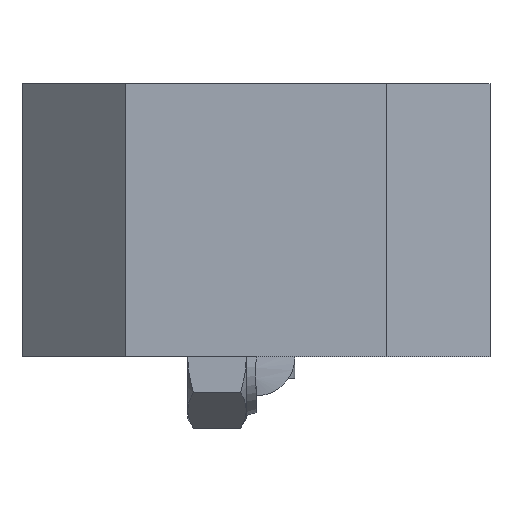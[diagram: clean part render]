
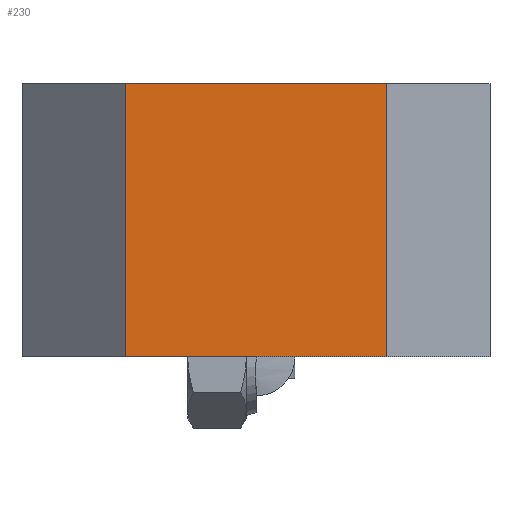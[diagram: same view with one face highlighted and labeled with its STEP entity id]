
A CAD part, left-side view. The second image highlights one B-rep face of the part: STEP entity #230.
In plain terms, the highlighted planar face has unit normal (-1, 0, 0).
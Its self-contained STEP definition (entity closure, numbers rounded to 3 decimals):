
#230 = ADVANCED_FACE( '', ( #302 ), #303, .T. );
#302 = FACE_OUTER_BOUND( '', #446, .T. );
#303 = PLANE( '', #447 );
#446 = EDGE_LOOP( '', ( #635, #636, #637, #638 ) );
#447 = AXIS2_PLACEMENT_3D( '', #639, #640, #641 );
#635 = ORIENTED_EDGE( '', *, *, #1022, .T. );
#636 = ORIENTED_EDGE( '', *, *, #1019, .T. );
#637 = ORIENTED_EDGE( '', *, *, #997, .F. );
#638 = ORIENTED_EDGE( '', *, *, #1009, .T. );
#639 = CARTESIAN_POINT( '', ( -36., -36., 0. ) );
#640 = DIRECTION( '', ( -1., 0., 0. ) );
#641 = DIRECTION( '', ( 0., 0., 1. ) );
#997 = EDGE_CURVE( '', #1118, #1119, #1120, .T. );
#1009 = EDGE_CURVE( '', #1118, #1140, #1142, .T. );
#1019 = EDGE_CURVE( '', #1158, #1119, #1159, .T. );
#1022 = EDGE_CURVE( '', #1140, #1158, #1163, .T. );
#1118 = VERTEX_POINT( '', #1318 );
#1119 = VERTEX_POINT( '', #1319 );
#1120 = LINE( '', #1320, #1321 );
#1140 = VERTEX_POINT( '', #1349 );
#1142 = LINE( '', #1352, #1353 );
#1158 = VERTEX_POINT( '', #1378 );
#1159 = LINE( '', #1379, #1380 );
#1163 = LINE( '', #1385, #1386 );
#1318 = CARTESIAN_POINT( '', ( -36., -20., 0. ) );
#1319 = CARTESIAN_POINT( '', ( -36., 20., 0. ) );
#1320 = CARTESIAN_POINT( '', ( -36., -36., 0. ) );
#1321 = VECTOR( '', #1722, 1000. );
#1349 = CARTESIAN_POINT( '', ( -36., -20., 42. ) );
#1352 = CARTESIAN_POINT( '', ( -36., -20., 42. ) );
#1353 = VECTOR( '', #1738, 1000. );
#1378 = CARTESIAN_POINT( '', ( -36., 20., 42. ) );
#1379 = CARTESIAN_POINT( '', ( -36., 20., 0. ) );
#1380 = VECTOR( '', #1748, 1000. );
#1385 = CARTESIAN_POINT( '', ( -36., -36., 42. ) );
#1386 = VECTOR( '', #1753, 1000. );
#1722 = DIRECTION( '', ( 0., 1., 0. ) );
#1738 = DIRECTION( '', ( 0., 0., 1. ) );
#1748 = DIRECTION( '', ( 0., 0., -1. ) );
#1753 = DIRECTION( '', ( 0., 1., 0. ) );
